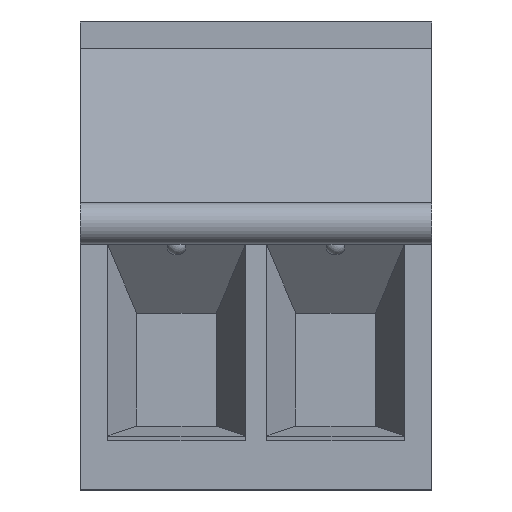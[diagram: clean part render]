
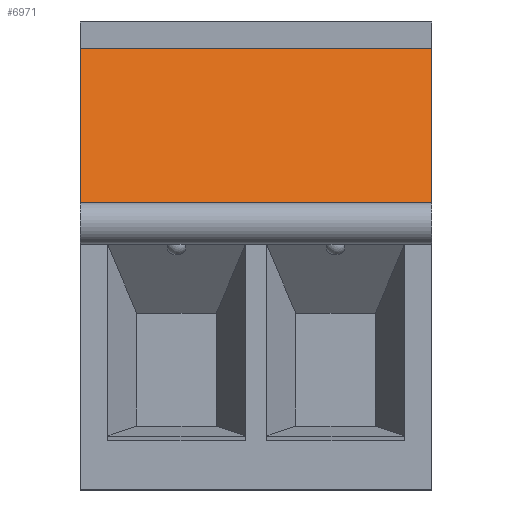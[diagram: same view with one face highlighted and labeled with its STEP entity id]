
A CAD part, top view. The second image highlights one B-rep face of the part: STEP entity #6971.
In plain terms, the highlighted planar face has unit normal (0, 0.249, 0.969).
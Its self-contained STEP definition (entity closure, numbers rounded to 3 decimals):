
#1174 = PLANE('',#1175);
#1175 = AXIS2_PLACEMENT_3D('',#1176,#1177,#1178);
#1176 = CARTESIAN_POINT('',(-8.41,-12.25,-10.621));
#1177 = DIRECTION('',(-1.,0.,0.));
#1178 = DIRECTION('',(0.,0.,1.));
#1560 = PLANE('',#1561);
#1561 = AXIS2_PLACEMENT_3D('',#1562,#1563,#1564);
#1562 = CARTESIAN_POINT('',(0.,-29.45,2.413));
#1563 = DIRECTION('',(1.,0.,0.));
#1564 = DIRECTION('',(0.,0.,-1.));
#6553 = VERTEX_POINT('',#6554);
#6554 = CARTESIAN_POINT('',(-8.41,4.2,-1.6));
#6568 = PLANE('',#6569);
#6569 = AXIS2_PLACEMENT_3D('',#6570,#6571,#6572);
#6570 = CARTESIAN_POINT('',(0.,4.2,-1.6));
#6571 = DIRECTION('',(0.,1.,0.));
#6572 = DIRECTION('',(0.,-0.,1.));
#6580 = EDGE_CURVE('',#6581,#6553,#6583,.T.);
#6581 = VERTEX_POINT('',#6582);
#6582 = CARTESIAN_POINT('',(-8.41,0.5,-0.65));
#6583 = SURFACE_CURVE('',#6584,(#6588,#6595),.PCURVE_S1.);
#6584 = LINE('',#6585,#6586);
#6585 = CARTESIAN_POINT('',(-8.41,0.5,-0.65));
#6586 = VECTOR('',#6587,1.);
#6587 = DIRECTION('',(0.,0.969,-0.249));
#6588 = PCURVE('',#1174,#6589);
#6589 = DEFINITIONAL_REPRESENTATION('',(#6590),#6594);
#6590 = LINE('',#6591,#6592);
#6591 = CARTESIAN_POINT('',(9.971,12.75));
#6592 = VECTOR('',#6593,1.);
#6593 = DIRECTION('',(-0.249,0.969));
#6594 = ( GEOMETRIC_REPRESENTATION_CONTEXT(2) 
PARAMETRIC_REPRESENTATION_CONTEXT() REPRESENTATION_CONTEXT('2D SPACE',''
  ) );
#6595 = PCURVE('',#6596,#6601);
#6596 = PLANE('',#6597);
#6597 = AXIS2_PLACEMENT_3D('',#6598,#6599,#6600);
#6598 = CARTESIAN_POINT('',(0.,0.5,-0.65));
#6599 = DIRECTION('',(0.,-0.249,-0.969));
#6600 = DIRECTION('',(0.,0.969,-0.249));
#6601 = DEFINITIONAL_REPRESENTATION('',(#6602),#6606);
#6602 = LINE('',#6603,#6604);
#6603 = CARTESIAN_POINT('',(0.,-8.41));
#6604 = VECTOR('',#6605,1.);
#6605 = DIRECTION('',(1.,0.));
#6606 = ( GEOMETRIC_REPRESENTATION_CONTEXT(2) 
PARAMETRIC_REPRESENTATION_CONTEXT() REPRESENTATION_CONTEXT('2D SPACE',''
  ) );
#6624 = PLANE('',#6625);
#6625 = AXIS2_PLACEMENT_3D('',#6626,#6627,#6628);
#6626 = CARTESIAN_POINT('',(0.,0.5,0.));
#6627 = DIRECTION('',(0.,-1.,0.));
#6628 = DIRECTION('',(0.,0.,-1.));
#6926 = EDGE_CURVE('',#6927,#6553,#6929,.T.);
#6927 = VERTEX_POINT('',#6928);
#6928 = CARTESIAN_POINT('',(0.,4.2,-1.6));
#6929 = SURFACE_CURVE('',#6930,(#6934,#6941),.PCURVE_S1.);
#6930 = LINE('',#6931,#6932);
#6931 = CARTESIAN_POINT('',(0.,4.2,-1.6));
#6932 = VECTOR('',#6933,1.);
#6933 = DIRECTION('',(-1.,0.,0.));
#6934 = PCURVE('',#6568,#6935);
#6935 = DEFINITIONAL_REPRESENTATION('',(#6936),#6940);
#6936 = LINE('',#6937,#6938);
#6937 = CARTESIAN_POINT('',(0.,0.));
#6938 = VECTOR('',#6939,1.);
#6939 = DIRECTION('',(0.,-1.));
#6940 = ( GEOMETRIC_REPRESENTATION_CONTEXT(2) 
PARAMETRIC_REPRESENTATION_CONTEXT() REPRESENTATION_CONTEXT('2D SPACE',''
  ) );
#6941 = PCURVE('',#6596,#6942);
#6942 = DEFINITIONAL_REPRESENTATION('',(#6943),#6947);
#6943 = LINE('',#6944,#6945);
#6944 = CARTESIAN_POINT('',(3.82,0.));
#6945 = VECTOR('',#6946,1.);
#6946 = DIRECTION('',(0.,-1.));
#6947 = ( GEOMETRIC_REPRESENTATION_CONTEXT(2) 
PARAMETRIC_REPRESENTATION_CONTEXT() REPRESENTATION_CONTEXT('2D SPACE',''
  ) );
#6971 = ADVANCED_FACE('',(#6972),#6596,.F.);
#6972 = FACE_BOUND('',#6973,.F.);
#6973 = EDGE_LOOP('',(#6974,#6997,#6998,#6999));
#6974 = ORIENTED_EDGE('',*,*,#6975,.T.);
#6975 = EDGE_CURVE('',#6976,#6581,#6978,.T.);
#6976 = VERTEX_POINT('',#6977);
#6977 = CARTESIAN_POINT('',(0.,0.5,-0.65));
#6978 = SURFACE_CURVE('',#6979,(#6983,#6990),.PCURVE_S1.);
#6979 = LINE('',#6980,#6981);
#6980 = CARTESIAN_POINT('',(0.,0.5,-0.65));
#6981 = VECTOR('',#6982,1.);
#6982 = DIRECTION('',(-1.,0.,0.));
#6983 = PCURVE('',#6596,#6984);
#6984 = DEFINITIONAL_REPRESENTATION('',(#6985),#6989);
#6985 = LINE('',#6986,#6987);
#6986 = CARTESIAN_POINT('',(0.,0.));
#6987 = VECTOR('',#6988,1.);
#6988 = DIRECTION('',(0.,-1.));
#6989 = ( GEOMETRIC_REPRESENTATION_CONTEXT(2) 
PARAMETRIC_REPRESENTATION_CONTEXT() REPRESENTATION_CONTEXT('2D SPACE',''
  ) );
#6990 = PCURVE('',#6624,#6991);
#6991 = DEFINITIONAL_REPRESENTATION('',(#6992),#6996);
#6992 = LINE('',#6993,#6994);
#6993 = CARTESIAN_POINT('',(0.65,0.));
#6994 = VECTOR('',#6995,1.);
#6995 = DIRECTION('',(0.,-1.));
#6996 = ( GEOMETRIC_REPRESENTATION_CONTEXT(2) 
PARAMETRIC_REPRESENTATION_CONTEXT() REPRESENTATION_CONTEXT('2D SPACE',''
  ) );
#6997 = ORIENTED_EDGE('',*,*,#6580,.T.);
#6998 = ORIENTED_EDGE('',*,*,#6926,.F.);
#6999 = ORIENTED_EDGE('',*,*,#7000,.F.);
#7000 = EDGE_CURVE('',#6976,#6927,#7001,.T.);
#7001 = SURFACE_CURVE('',#7002,(#7006,#7013),.PCURVE_S1.);
#7002 = LINE('',#7003,#7004);
#7003 = CARTESIAN_POINT('',(0.,0.5,-0.65));
#7004 = VECTOR('',#7005,1.);
#7005 = DIRECTION('',(0.,0.969,-0.249));
#7006 = PCURVE('',#6596,#7007);
#7007 = DEFINITIONAL_REPRESENTATION('',(#7008),#7012);
#7008 = LINE('',#7009,#7010);
#7009 = CARTESIAN_POINT('',(0.,0.));
#7010 = VECTOR('',#7011,1.);
#7011 = DIRECTION('',(1.,0.));
#7012 = ( GEOMETRIC_REPRESENTATION_CONTEXT(2) 
PARAMETRIC_REPRESENTATION_CONTEXT() REPRESENTATION_CONTEXT('2D SPACE',''
  ) );
#7013 = PCURVE('',#1560,#7014);
#7014 = DEFINITIONAL_REPRESENTATION('',(#7015),#7019);
#7015 = LINE('',#7016,#7017);
#7016 = CARTESIAN_POINT('',(3.063,29.95));
#7017 = VECTOR('',#7018,1.);
#7018 = DIRECTION('',(0.249,0.969));
#7019 = ( GEOMETRIC_REPRESENTATION_CONTEXT(2) 
PARAMETRIC_REPRESENTATION_CONTEXT() REPRESENTATION_CONTEXT('2D SPACE',''
  ) );
